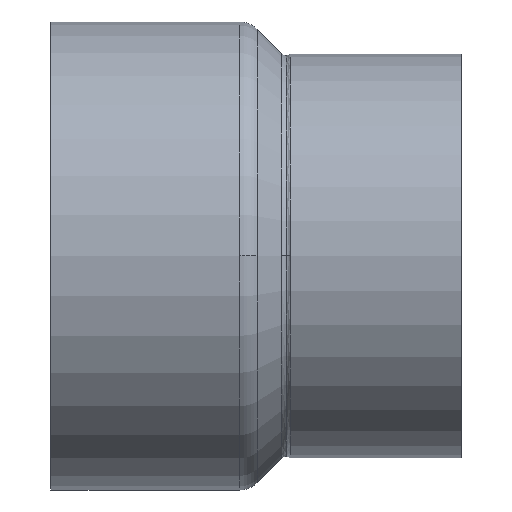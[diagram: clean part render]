
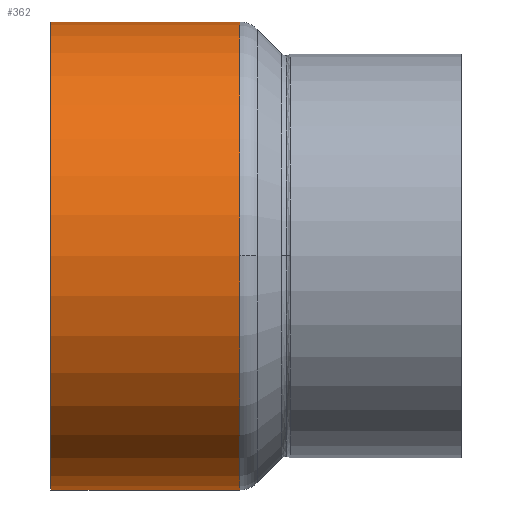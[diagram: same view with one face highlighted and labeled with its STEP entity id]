
A CAD part, top view. The second image highlights one B-rep face of the part: STEP entity #362.
In plain terms, the highlighted cylindrical face has radius 46.65 mm (diameter 93.3 mm), a partial arc.
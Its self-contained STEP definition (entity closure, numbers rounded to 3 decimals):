
#312=CARTESIAN_POINT('',(18.818,0.0,0.0));
#313=DIRECTION('',(1.0,0.0,0.0));
#314=DIRECTION('',(0.0,1.0,0.0));
#315=AXIS2_PLACEMENT_3D('',#312,#313,#314);
#316=CYLINDRICAL_SURFACE('',#315,46.65);
#317=CARTESIAN_POINT('',(0.,46.65,0.0));
#318=VERTEX_POINT('',#317);
#319=CARTESIAN_POINT('',(37.635,46.65,0.0));
#320=VERTEX_POINT('',#319);
#321=CARTESIAN_POINT('',(0.,46.65,0.0));
#322=DIRECTION('',(1.0,0.0,0.0));
#323=VECTOR('',#322,37.635);
#324=LINE('',#321,#323);
#325=EDGE_CURVE('',#318,#320,#324,.T.);
#326=ORIENTED_EDGE('',*,*,#325,.F.);
#327=CARTESIAN_POINT('',(0.,-46.65,0.));
#328=VERTEX_POINT('',#327);
#329=CARTESIAN_POINT('',(0.,0.0,0.0));
#330=DIRECTION('',(1.0,0.0,0.0));
#331=DIRECTION('',(0.0,1.0,0.0));
#332=AXIS2_PLACEMENT_3D('',#329,#330,#331);
#333=CIRCLE('',#332,46.65);
#334=EDGE_CURVE('',#318,#328,#333,.T.);
#335=ORIENTED_EDGE('',*,*,#334,.T.);
#336=CARTESIAN_POINT('',(37.635,-46.65,0.));
#337=VERTEX_POINT('',#336);
#338=CARTESIAN_POINT('',(37.635,-46.65,0.));
#339=DIRECTION('',(-1.0,0.0,0.0));
#340=VECTOR('',#339,37.635);
#341=LINE('',#338,#340);
#342=EDGE_CURVE('',#337,#328,#341,.T.);
#343=ORIENTED_EDGE('',*,*,#342,.F.);
#344=CARTESIAN_POINT('',(37.635,0.,46.65));
#345=VERTEX_POINT('',#344);
#346=CARTESIAN_POINT('',(37.635,0.0,0.0));
#347=DIRECTION('',(1.0,0.0,0.0));
#348=DIRECTION('',(0.0,1.0,0.0));
#349=AXIS2_PLACEMENT_3D('',#346,#347,#348);
#350=CIRCLE('',#349,46.65);
#351=EDGE_CURVE('',#345,#337,#350,.T.);
#352=ORIENTED_EDGE('',*,*,#351,.F.);
#353=CARTESIAN_POINT('',(37.635,0.0,0.0));
#354=DIRECTION('',(1.0,0.0,0.0));
#355=DIRECTION('',(0.0,1.0,0.0));
#356=AXIS2_PLACEMENT_3D('',#353,#354,#355);
#357=CIRCLE('',#356,46.65);
#358=EDGE_CURVE('',#320,#345,#357,.T.);
#359=ORIENTED_EDGE('',*,*,#358,.F.);
#360=EDGE_LOOP('',(#326,#335,#343,#352,#359));
#361=FACE_OUTER_BOUND('',#360,.T.);
#362=ADVANCED_FACE('',(#361),#316,.T.);
